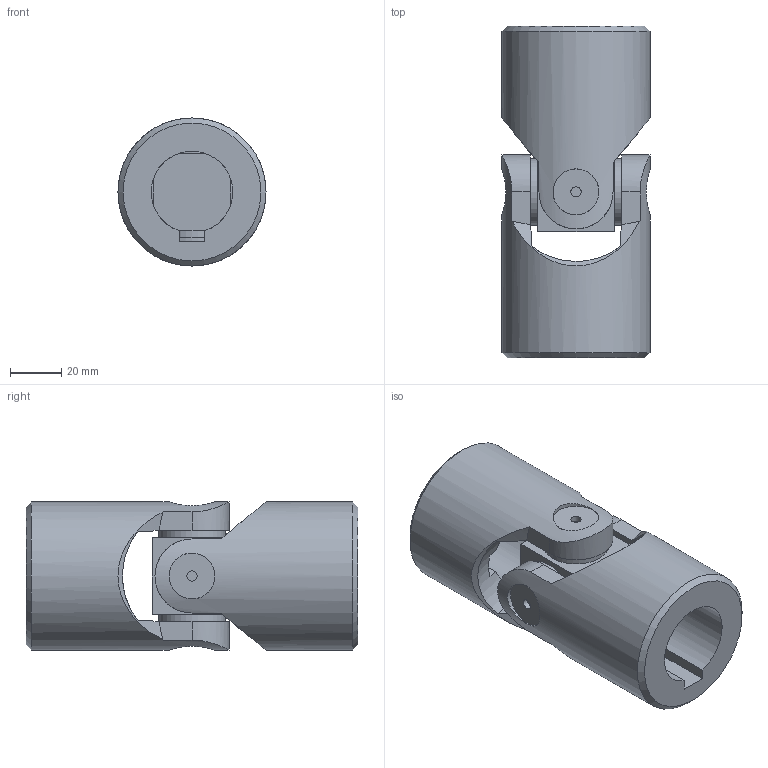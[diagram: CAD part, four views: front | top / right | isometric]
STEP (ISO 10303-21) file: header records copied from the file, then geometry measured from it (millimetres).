
FILE_DESCRIPTION(/* description */ (''),/* implementation_level */ '2;1');
FILE_NAME(/* name */ '\\SRV2016\Societa\Stefano\Disegni 3D\Dis. Clienti\0000Catalogo 3D\01Singoli G-GB\6G1-2C_SG0S322C.stp',/* time_stamp */ '2021-11-10T11:18:34+01:00',/* author */ ('acquisti'),/* organization */ (''),/* preprocessor_version */ 'ST-DEVELOPER v15.6',/* originating_system */ 'Autodesk Inventor 2015',/* authorisation */ '');
FILE_SCHEMA (('AUTOMOTIVE_DESIGN { 1 0 10303 214 3 1 1 }'));
Length unit declared in the file: millimetre
Products named in the file (3): 6G SFE; 6G1 MOC; Assieme1
Assembly tree (3 placements, depth 2):
  Assieme1
    6G SFE
    6G1 MOC  x2
Bounding box: 58 x 130 x 58 mm (x, y, z)
Volume: 218110.3 mm3; surface area: 47312.1 mm2
Topology: 3 solids, 3 shells, 74 faces, 178 edges, 120 vertices
Faces by surface type: plane 42, cylinder 20, cone 10, torus 2
Full cylindrical faces by diameter (mm): 4 x4, 18 x4, 26 x4, 58 x2
Entity records: 1480 total; most frequent: CARTESIAN_POINT 478, DIRECTION 193, ORIENTED_EDGE 180, EDGE_CURVE 90, AXIS2_PLACEMENT_3D 81, VERTEX_POINT 68, EDGE_LOOP 64, FACE_OUTER_BOUND 44
